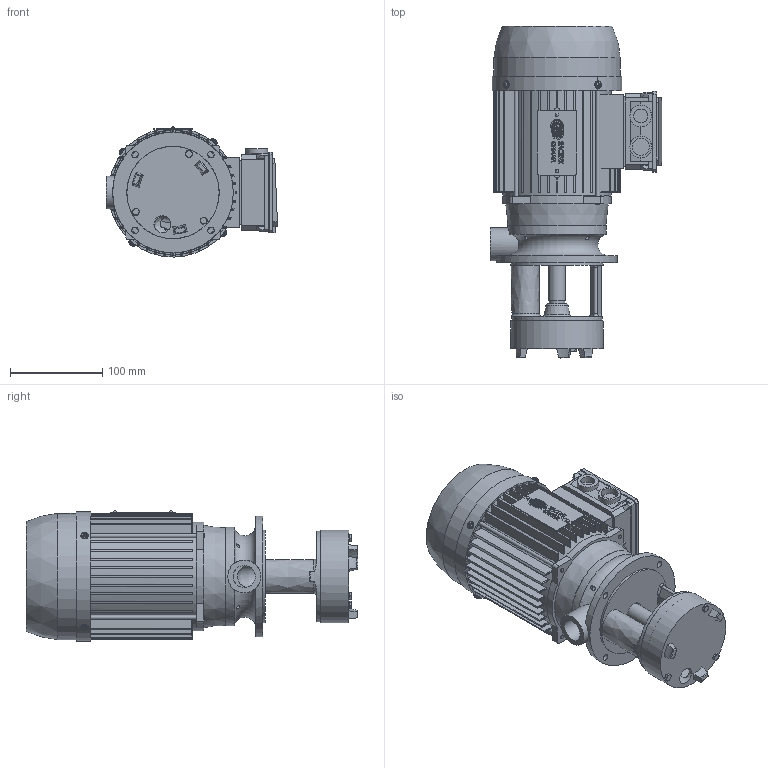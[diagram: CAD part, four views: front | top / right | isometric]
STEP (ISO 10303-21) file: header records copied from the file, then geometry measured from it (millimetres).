
FILE_DESCRIPTION(/* description */ (''),/* implementation_level */ '2;1');
FILE_NAME(/* name */ 'T:\PROGETTI\2019 - REVISIONE CATALOGHI\STEP\EPC 71 B\YT71EPB++100.stp',/* time_stamp */ '2019-05-22T15:57:01+02:00',/* author */ ('cboccato'),/* organization */ (''),/* preprocessor_version */ 'ST-DEVELOPER v17.2',/* originating_system */ 'Autodesk Inventor 2019',/* authorisation */ '');
FILE_SCHEMA (('CONFIG_CONTROL_DESIGN'));
Products named in the file (1): YT71EPB++100_iLogic_Shrinkwrap
Bounding box: 185.5 x 359.6 x 141.09 mm (x, y, z)
Volume: 1234890.8 mm3; surface area: 580584.2 mm2
Topology: 14 solids, 32 shells, 2747 faces, 7780 edges, 5149 vertices
Faces by surface type: plane 1599, cylinder 712, cone 224, bspline 110, torus 91, sphere 11
Full cylindrical faces by diameter (mm): 2 x2, 2.53 x2, 3 x9, 3.5 x4, 3.621 x4, 3.9 x4, 4 x3, 4.134 x4, 4.3 x4, 4.33 x8, 4.5 x3, 4.6 x4, 5 x4, 5.5 x4, 6 x4, 6.03 x3, 7 x4, 7.2 x4, 7.75 x1, 9.6 x4, 12 x1, 15 x1, 16.6 x1, 16.8 x1, 16.99 x1, 17 x2, 17.4 x1, 17.5 x1, 18 x2, 18.5 x2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
Entity records: 102315 total; most frequent: CARTESIAN_POINT 28195, ORIENTED_EDGE 15588, DIRECTION 14093, EDGE_CURVE 7794, VERTEX_POINT 5174, AXIS2_PLACEMENT_3D 4884, LINE 4325, VECTOR 4325
